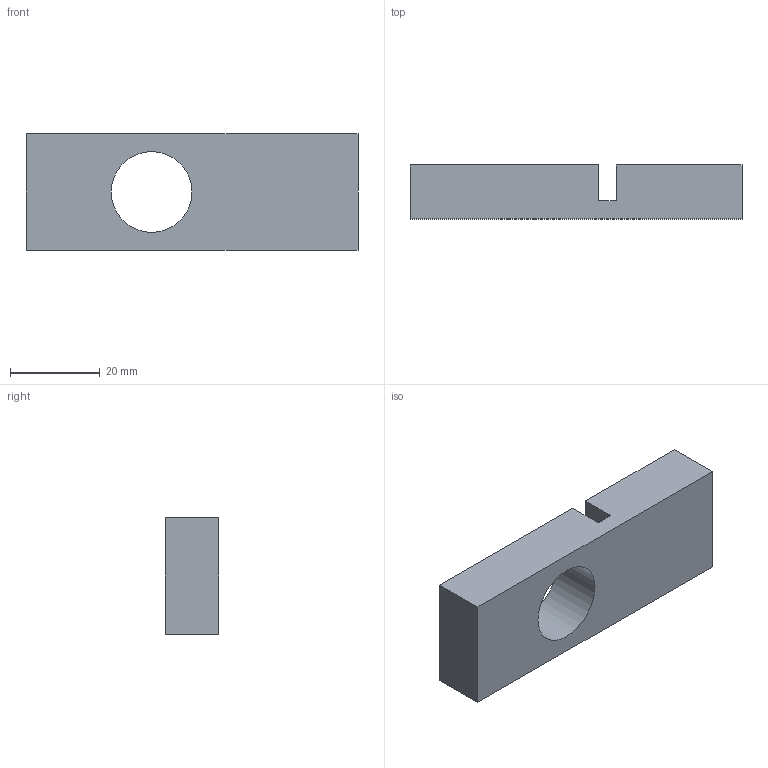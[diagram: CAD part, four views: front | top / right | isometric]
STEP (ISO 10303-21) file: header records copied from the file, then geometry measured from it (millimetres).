
FILE_DESCRIPTION((''),'2;1');
FILE_NAME('C:\Documents and Settings\akey00\デスクトップ\NIC2Ｄ_3D_CAD\3_06完\【提出用】ホルダープレート\3D_EZPS-08\Imported Components\3D_EZPS-08\3D_EZPS-08.stp','2013-03-06T19:11:30',(''),('NIC Autotec, Inc.'),'Autodesk Inventor 2013','Autodesk Inventor 2013','');
FILE_SCHEMA(('CONFIG_CONTROL_DESIGN'));
Length unit declared in the file: millimetre
Products named in the file (1): 3D_EZPS-08
Bounding box: 74 x 12 x 26 mm (x, y, z)
Volume: 19202.4 mm3; surface area: 6769.6 mm2
Topology: 1 solids, 1 shells, 11 faces, 27 edges, 18 vertices
Faces by surface type: plane 10, cylinder 1
Full cylindrical faces by diameter (mm): 18 x1
Entity records: 366 total; most frequent: CARTESIAN_POINT 56, DIRECTION 52, ORIENTED_EDGE 52, EDGE_CURVE 26, VECTOR 24, LINE 24, VERTEX_POINT 18, AXIS2_PLACEMENT_3D 14
